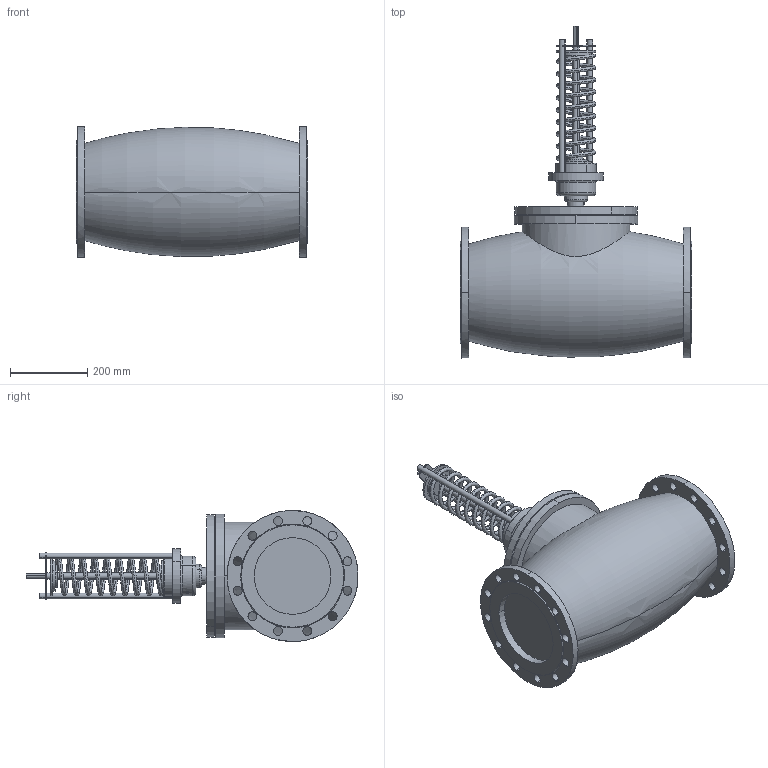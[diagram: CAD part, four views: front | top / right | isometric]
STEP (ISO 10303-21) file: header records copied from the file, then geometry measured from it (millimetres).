
FILE_DESCRIPTION (( 'STEP AP214' ), '1' );
FILE_NAME ('RDT, RDT-P DN-200.STEP', '2025-12-12T06:27:50', ( '' ), ( '' ), 'SwSTEP 2.0', 'SolidWorks 2023', '' );
FILE_SCHEMA (( 'AUTOMOTIVE_DESIGN' ));
Length unit declared in the file: millimetre
Products named in the file (1): RDT, RDT-P DN-200
Bounding box: 600.01 x 861.81 x 340 mm (x, y, z)
Volume: 51027563.9 mm3; surface area: 1244084.4 mm2
Topology: 2 solids, 2 shells, 187 faces, 464 edges, 302 vertices
Faces by surface type: cylinder 109, plane 48, cone 13, torus 12, bspline 5
Entity records: 9990 total; most frequent: CARTESIAN_POINT 5251, DIRECTION 1051, ORIENTED_EDGE 928, EDGE_CURVE 464, AXIS2_PLACEMENT_3D 443, VERTEX_POINT 302, EDGE_LOOP 264, CIRCLE 260
